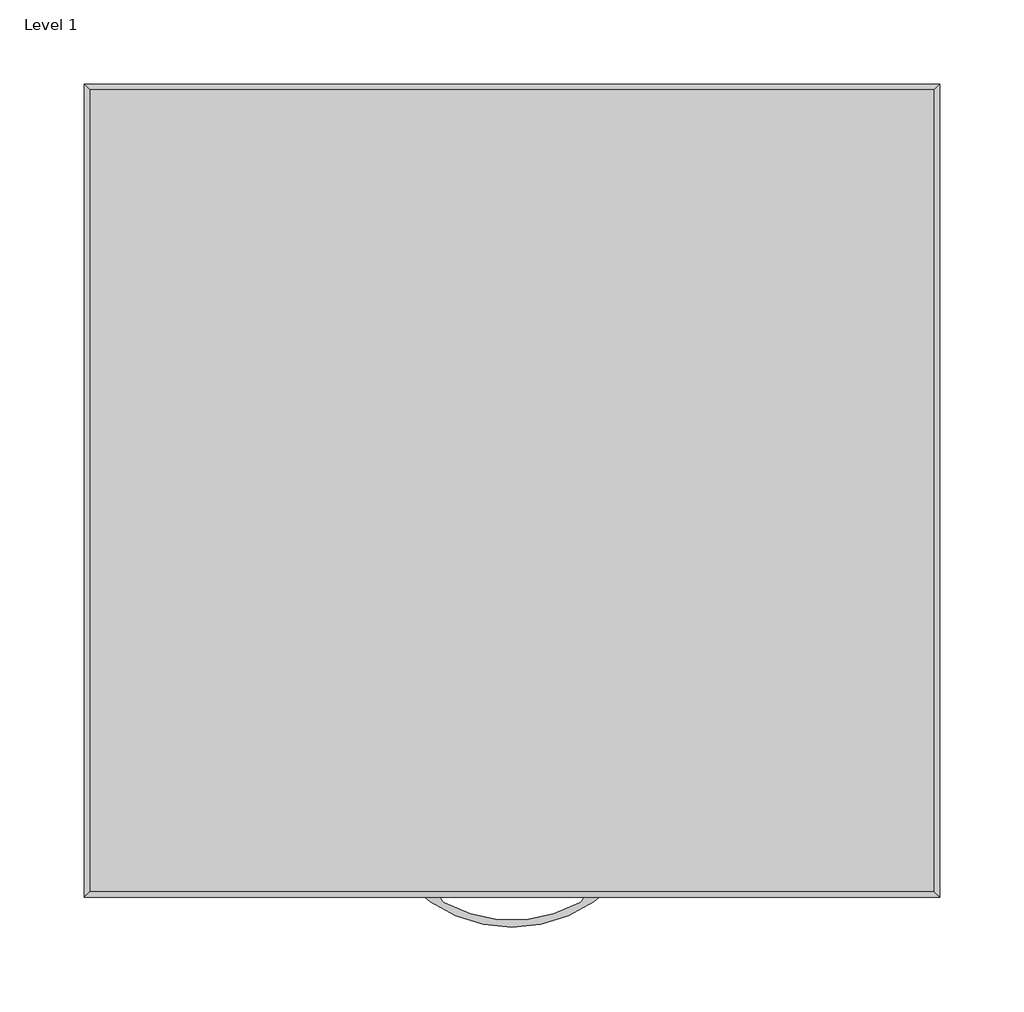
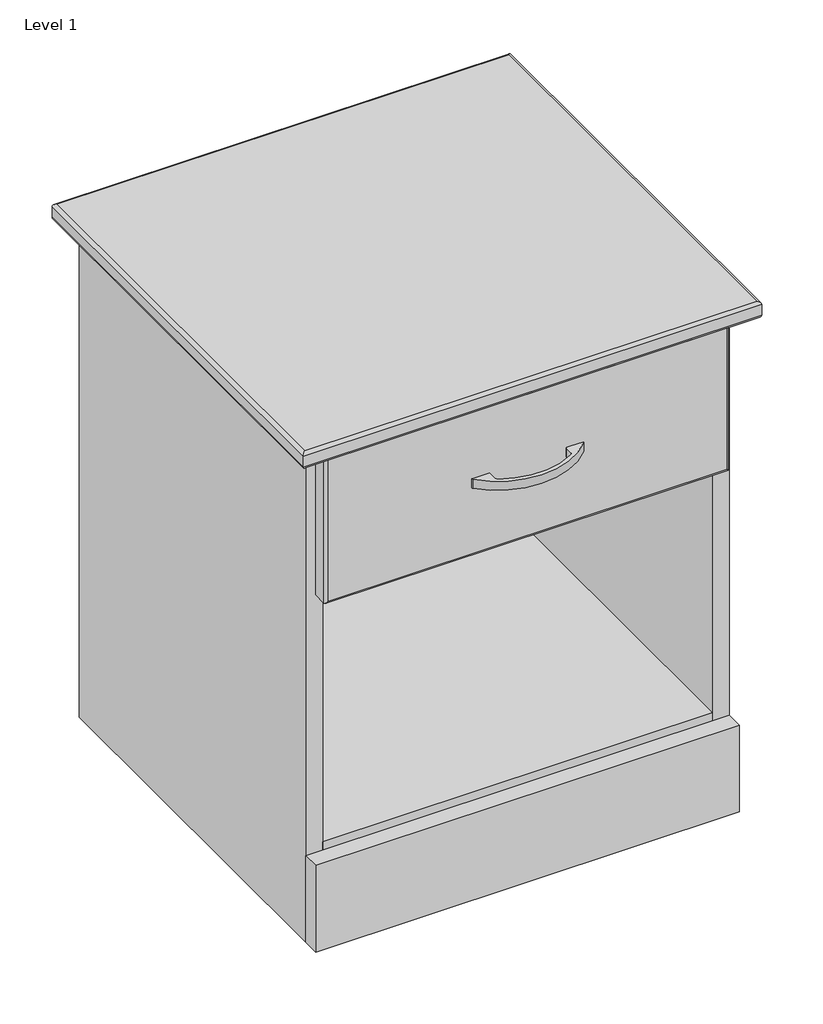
# One storey, incomplete: 1 furniture element.
"""IFC4 building model written with IfcOpenShell, lengths in millimetres."""

from ifc_helpers import new_model, si_unit, origin, place, context, project, spatial, transform, mapped, element, save
from components import sk100_24_b9e1a470

model = new_model("IFC4")

# Units and contexts
model_context = context("Model", 3, world=origin())
ifc_project = project(units=[si_unit("LENGTHUNIT", "METRE", prefix="MILLI")], contexts=[model_context])

# Site, building, storey
site = spatial("IfcSite", under=ifc_project)
building = spatial("IfcBuilding", under=site)
storey = spatial("IfcBuildingStorey", under=building, Name="Level 1", Elevation=0.0)

# Furniture
placement = place(None, origin())
sk100_24_shape = sk100_24_b9e1a470(model_context)
element("IfcFurniture", 1, ObjectType="Stance_HC-Kindred-Bedside_Table : SK100-24", at=placement, inside=storey, context=model_context, shape_type="MappedRepresentation", body=[
    mapped(sk100_24_shape, transform((62078.2879331, 6742.8730107, 0.0), x_axis=(1.0, 0.0, 0.0), y_axis=(0.0, 1.0, 0.0), z_axis=(0.0, 0.0, 1.0))),
])

save(model, "model.ifc")
